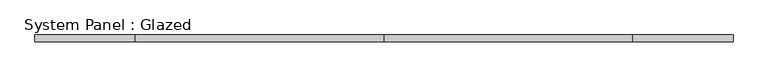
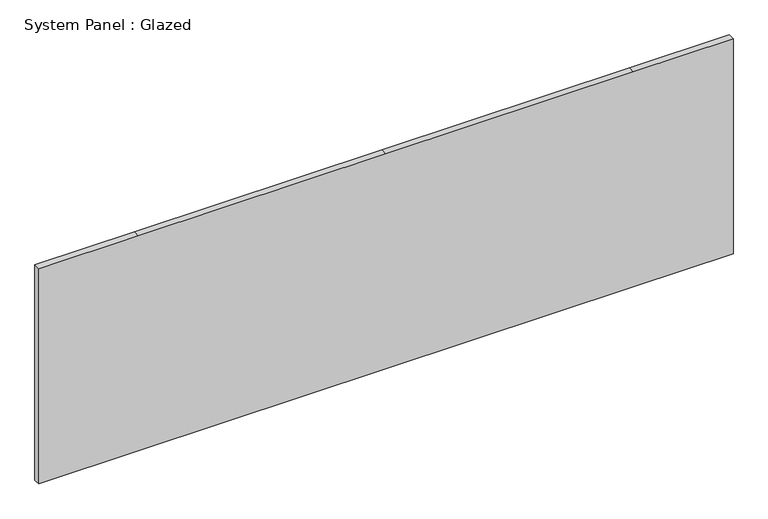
"""IFC4 building model written with IfcOpenShell, lengths in millimetres: plate geometry, System Panel : Glazed."""

from ifc_helpers import new_model, si_unit, frame, origin, place, context, project, spatial, polyline, outline, extrude, source, transform, mapped, element, save


def system_panel_glazed_d48a954d(model_context):
    return source(origin(), model_context, "Body", "SweptSolid", [
        extrude(outline(polyline([(0.0, -1327.15), (0.0, -946.15), (0.0, 0.0), (0.0, 946.15), (0.0, 1327.15), (869.95, 1327.15), (869.95, 946.15), (869.95, 0.0), (869.95, -946.15), (869.95, -1327.15), (0.0, -1327.15)])), frame((0.0, -44.45, 0.0), z_axis=(0.0, 1.0, 0.0), x_axis=(0.0, 0.0, 1.0)), (0.0, 0.0, 1.0), 25.4),
    ])


if __name__ == "__main__":
    model = new_model("IFC4")
    model_context = context("Model", 3, world=origin())
    ifc_project = project(units=[si_unit("LENGTHUNIT", "METRE", prefix="MILLI")], contexts=[model_context])
    site = spatial("IfcSite", under=ifc_project)
    building = spatial("IfcBuilding", under=site)
    placement = place(None, origin())
    system_panel_glazed_shape = system_panel_glazed_d48a954d(model_context)
    element("IfcPlate", 1, ObjectType="System Panel : Glazed", at=placement, inside=building, context=model_context, shape_type="MappedRepresentation", body=[
        mapped(system_panel_glazed_shape, transform((0.0, 0.0, 0.0), x_axis=(1.0, 0.0, 0.0), y_axis=(0.0, 1.0, 0.0), z_axis=(0.0, 0.0, 1.0))),
    ])
    save(model, "model.ifc")
